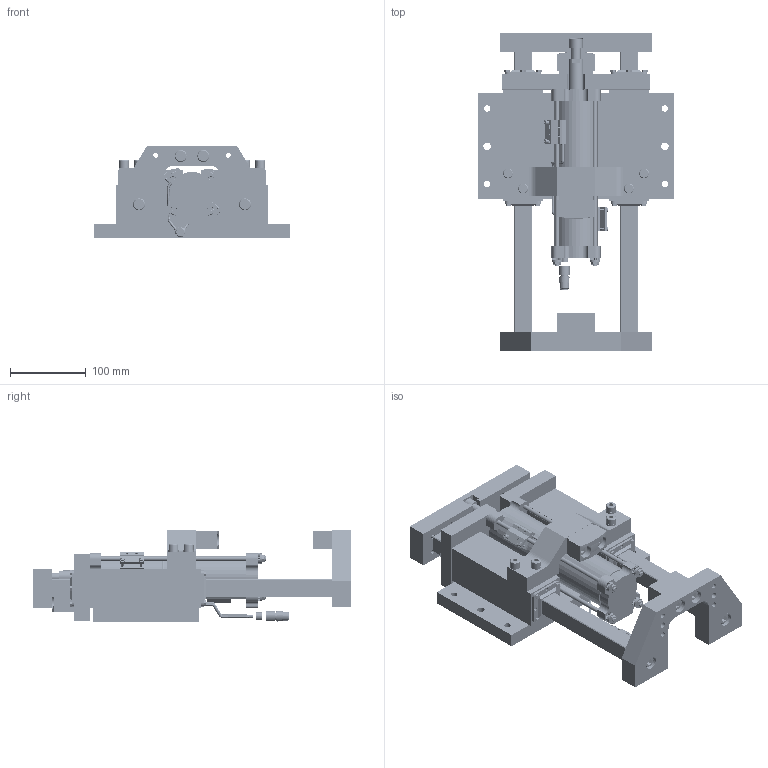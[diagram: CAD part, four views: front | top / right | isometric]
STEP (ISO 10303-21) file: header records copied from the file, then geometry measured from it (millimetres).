
FILE_DESCRIPTION(/* description */ (''),/* implementation_level */ '2;1');
FILE_NAME(/* name */ 'C:\Vault Workspace\CAD\Welker\Shot Pin\DBL24\STANDARD\DB2125B01XL3XXX0000-RET.stp',/* time_stamp */ '2018-03-26T07:56:42-04:00',/* author */ ('KLabrecque'),/* organization */ (''),/* preprocessor_version */ 'ST-DEVELOPER v17',/* originating_system */ 'Autodesk Inventor 2018',/* authorisation */ '');
FILE_SCHEMA (('AUTOMOTIVE_DESIGN { 1 0 10303 214 3 1 1 }'));
Products named in the file (1): DB2L01_Shrinkwrap_1
Bounding box: 260 x 421 x 120.8 mm (x, y, z)
Volume: 3196605.5 mm3; surface area: 772650.7 mm2
Topology: 134 solids, 134 shells, 4556 faces, 11931 edges, 7861 vertices
Faces by surface type: plane 2708, cylinder 1240, cone 530, bspline 56, torus 22
Full cylindrical faces by diameter (mm): 0.5 x1, 1.9 x2, 2.459 x4, 2.5 x1, 2.6 x2, 3 x8, 3.175 x22, 3.2 x6, 3.5 x4, 3.734 x16, 4 x2, 4.166 x16, 4.763 x32, 4.917 x12, 5 x2, 5.359 x8, 5.5 x4, 6 x12, 6.35 x2, 6.5 x28, 6.563 x16, 6.647 x8, 7 x8, 7.95 x4, 8 x32, 8.334 x12, 8.376 x14, 8.5 x16, 8.7 x16, 9.6 x1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
Entity records: 163147 total; most frequent: CARTESIAN_POINT 48064, ORIENTED_EDGE 23740, DIRECTION 22080, EDGE_CURVE 11870, AXIS2_PLACEMENT_3D 8393, VERTEX_POINT 7861, LINE 5294, VECTOR 5294
